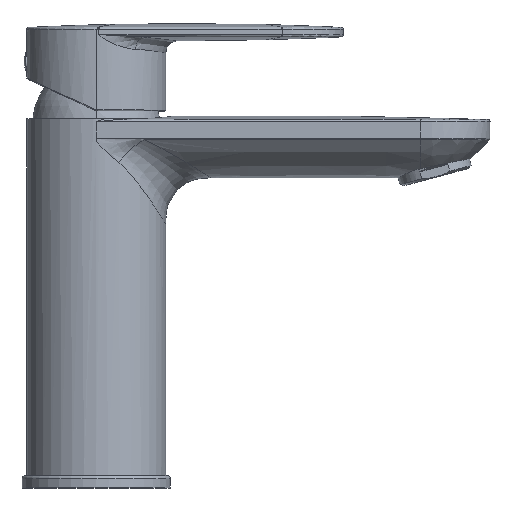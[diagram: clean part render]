
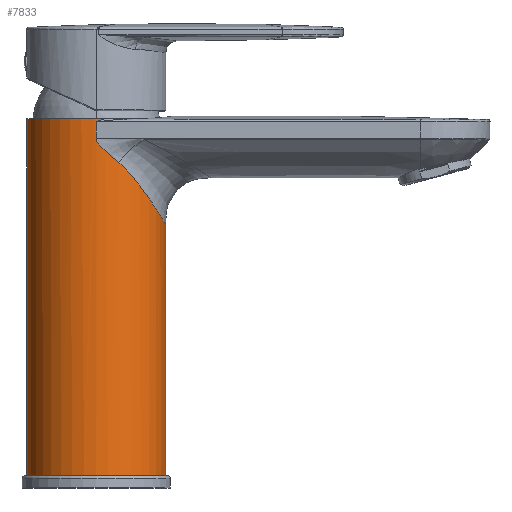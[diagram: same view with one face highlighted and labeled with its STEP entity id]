
A CAD part, top view. The second image highlights one B-rep face of the part: STEP entity #7833.
In plain terms, the highlighted cylindrical face has radius 22.5 mm (diameter 45 mm), a partial arc.
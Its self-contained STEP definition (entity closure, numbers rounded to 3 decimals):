
#1799=CARTESIAN_POINT('',(0.,115.5,0.));
#1800=DIRECTION('',(0.,-1.,0.));
#1801=DIRECTION('',(0.125,0.,0.992));
#1802=AXIS2_PLACEMENT_3D('',#1799,#1800,#1801);
#1899=DIRECTION('',(0.,1.,0.));
#1900=VECTOR('',#1899,81.391);
#1901=CARTESIAN_POINT('',(22.5,0.,0.));
#1902=LINE('',#1901,#1900);
#1973=CARTESIAN_POINT('',(0.,0.,0.));
#1974=DIRECTION('',(0.,1.,0.));
#1975=DIRECTION('',(-1.,0.,0.));
#1976=AXIS2_PLACEMENT_3D('',#1973,#1974,#1975);
#2036=DIRECTION('',(0.,1.,0.));
#2037=VECTOR('',#2036,115.5);
#2038=CARTESIAN_POINT('',(-22.5,0.,0.));
#2039=LINE('',#2038,#2037);
#2040=CARTESIAN_POINT('',(2.817,115.5,22.323));
#2041=CARTESIAN_POINT('',(2.596,115.432,22.351));
#2042=CARTESIAN_POINT('',(2.159,115.295,22.399));
#2043=CARTESIAN_POINT('',(1.614,115.118,22.444));
#2044=CARTESIAN_POINT('',(1.185,114.974,22.47));
#2045=CARTESIAN_POINT('',(0.926,114.885,22.481));
#2046=CARTESIAN_POINT('',(0.731,114.816,22.488));
#2047=CARTESIAN_POINT('',(0.592,114.766,22.492));
#2048=CARTESIAN_POINT('',(0.444,114.714,22.496));
#2049=CARTESIAN_POINT('',(0.278,114.672,22.499));
#2050=CARTESIAN_POINT('',(0.123,114.611,22.5));
#2051=CARTESIAN_POINT('',(0.04,114.543,22.5));
#2052=CARTESIAN_POINT('',(0.,114.507,22.5));
#2054=DIRECTION('',(0.,-1.,0.));
#2055=VECTOR('',#2054,5.272);
#2056=CARTESIAN_POINT('',(0.,114.507,22.5));
#2057=LINE('',#2056,#2055);
#2058=CARTESIAN_POINT('',(0.,109.236,
22.5));
#2059=CARTESIAN_POINT('',(-0.001,109.205,
22.5));
#2060=CARTESIAN_POINT('',(-0.01,109.144,
22.5));
#2061=CARTESIAN_POINT('',(-0.004,109.052,
22.5));
#2062=CARTESIAN_POINT('',(-0.003,108.991,
22.5));
#2063=CARTESIAN_POINT('',(0.,108.96,22.5));
#2065=CARTESIAN_POINT('',(0.,108.96,22.5));
#2066=CARTESIAN_POINT('',(-0.01,108.84,
22.5));
#2067=CARTESIAN_POINT('',(0.023,108.568,22.5));
#2068=CARTESIAN_POINT('',(0.327,107.881,22.498));
#2069=CARTESIAN_POINT('',(0.606,107.472,22.492));
#2070=CARTESIAN_POINT('',(0.931,107.052,22.482));
#2071=CARTESIAN_POINT('',(1.395,106.525,22.459));
#2072=CARTESIAN_POINT('',(2.021,105.895,22.413));
#2073=CARTESIAN_POINT('',(2.592,105.377,22.353));
#2074=CARTESIAN_POINT('',(2.911,105.095,22.311));
#2076=CARTESIAN_POINT('',(7.367,101.361,21.26));
#2077=CARTESIAN_POINT('',(7.5,101.236,21.213));
#2078=CARTESIAN_POINT('',(7.767,100.985,21.119));
#2079=CARTESIAN_POINT('',(8.297,100.479,20.917));
#2080=CARTESIAN_POINT('',(9.209,99.592,20.543));
#2081=CARTESIAN_POINT('',(10.471,98.309,19.938));
#2082=CARTESIAN_POINT('',(11.911,96.724,19.112));
#2083=CARTESIAN_POINT('',(13.263,95.056,18.2));
#2084=CARTESIAN_POINT('',(14.543,93.372,17.194));
#2085=CARTESIAN_POINT('',(15.756,91.706,16.091));
#2086=CARTESIAN_POINT('',(16.898,90.08,14.888));
#2087=CARTESIAN_POINT('',(17.96,88.529,13.588));
#2088=CARTESIAN_POINT('',(18.772,87.308,12.427));
#2089=CARTESIAN_POINT('',(19.378,86.374,11.446));
#2090=CARTESIAN_POINT('',(19.938,85.492,10.454));
#2091=CARTESIAN_POINT('',(20.581,84.457,9.151));
#2092=CARTESIAN_POINT('',(21.253,83.369,7.462));
#2093=CARTESIAN_POINT('',(21.798,82.493,5.679));
#2094=CARTESIAN_POINT('',(22.2,81.857,3.824));
#2095=CARTESIAN_POINT('',(22.446,81.475,1.921));
#2096=CARTESIAN_POINT('',(22.499,81.392,0.64));
#2097=CARTESIAN_POINT('',(22.5,81.391,0.));
#2099=CARTESIAN_POINT('',(2.817,115.5,22.323));
#2392=CARTESIAN_POINT('',(7.367,101.361,21.26));
#2393=CARTESIAN_POINT('',(6.968,101.717,21.398));
#2394=CARTESIAN_POINT('',(6.107,102.469,21.673));
#2395=CARTESIAN_POINT('',(4.555,103.7,22.054));
#2396=CARTESIAN_POINT('',(3.474,104.616,22.237));
#2397=CARTESIAN_POINT('',(2.911,105.095,22.311));
#3258=VERTEX_POINT('',#2099);
#3259=CARTESIAN_POINT('',(-22.5,115.5,0.));
#3260=VERTEX_POINT('',#3259);
#3265=CARTESIAN_POINT('',(22.5,0.,0.));
#3266=CARTESIAN_POINT('',(-22.5,0.,0.));
#3267=VERTEX_POINT('',#3265);
#3268=VERTEX_POINT('',#3266);
#3269=CARTESIAN_POINT('',(22.5,81.391,0.));
#3270=VERTEX_POINT('',#3269);
#3295=VERTEX_POINT('',#2052);
#3296=CARTESIAN_POINT('',(0.,109.236,
22.5));
#3297=VERTEX_POINT('',#3296);
#3298=VERTEX_POINT('',#2063);
#3299=VERTEX_POINT('',#2074);
#3300=VERTEX_POINT('',#2392);
#7810=CARTESIAN_POINT('',(0.,-4.54,0.));
#7811=DIRECTION('',(0.,-1.,0.));
#7812=DIRECTION('',(1.,0.,0.));
#7813=AXIS2_PLACEMENT_3D('',#7810,#7811,#7812);
#7814=CYLINDRICAL_SURFACE('',#7813,22.5);
#7815=ORIENTED_EDGE('',*,*,#7731,.F.);
#7816=ORIENTED_EDGE('',*,*,#7710,.T.);
#7817=ORIENTED_EDGE('',*,*,#7296,.F.);
#7819=ORIENTED_EDGE('',*,*,#7818,.T.);
#7821=ORIENTED_EDGE('',*,*,#7820,.T.);
#7823=ORIENTED_EDGE('',*,*,#7822,.T.);
#7825=ORIENTED_EDGE('',*,*,#7824,.T.);
#7827=ORIENTED_EDGE('',*,*,#7826,.F.);
#7829=ORIENTED_EDGE('',*,*,#7828,.T.);
#7830=ORIENTED_EDGE('',*,*,#7696,.F.);
#7831=EDGE_LOOP('',(#7815,#7816,#7817,#7819,#7821,#7823,#7825,#7827,#7829,
#7830));
#7832=FACE_OUTER_BOUND('',#7831,.F.);
#7833=ADVANCED_FACE('',(#7832),#7814,.T.);
#1803=CIRCLE('',#1802,22.5);
#1977=CIRCLE('',#1976,22.5);
#2053=B_SPLINE_CURVE_WITH_KNOTS('',3,(#2040,#2041,#2042,#2043,#2044,#2045,#2046,
#2047,#2048,#2049,#2050,#2051,#2052),.UNSPECIFIED.,.F.,.F.,(4,1,1,1,1,1,1,1,1,1,
4),(0.,0.234,0.462,0.576,
0.689,0.736,0.783,0.838,
0.892,0.946,1.),.UNSPECIFIED.);
#2064=B_SPLINE_CURVE_WITH_KNOTS('',3,(#2058,#2059,#2060,#2061,#2062,#2063),
.UNSPECIFIED.,.F.,.F.,(4,1,1,4),(0.,0.333,0.667,1.),
.UNSPECIFIED.);
#2075=B_SPLINE_CURVE_WITH_KNOTS('',3,(#2065,#2066,#2067,#2068,#2069,#2070,#2071,
#2072,#2073,#2074),.UNSPECIFIED.,.F.,.F.,(4,1,1,1,1,1,1,4),(0.,
0.143,0.286,0.429,0.571,
0.714,0.857,1.),.UNSPECIFIED.);
#2098=B_SPLINE_CURVE_WITH_KNOTS('',3,(#2076,#2077,#2078,#2079,#2080,#2081,#2082,
#2083,#2084,#2085,#2086,#2087,#2088,#2089,#2090,#2091,#2092,#2093,#2094,#2095,
#2096,#2097),.UNSPECIFIED.,.F.,.F.,(4,1,1,1,1,1,1,1,1,1,1,1,1,1,1,1,1,1,1,4),(
0.,0.019,0.037,0.075,0.148,
0.221,0.292,0.362,0.43,
0.497,0.562,0.626,0.658,
0.688,0.746,0.8,0.852,
0.902,0.951,1.),.UNSPECIFIED.);
#2398=B_SPLINE_CURVE_WITH_KNOTS('',3,(#2392,#2393,#2394,#2395,#2396,#2397),
.UNSPECIFIED.,.F.,.F.,(4,1,1,4),(0.,0.333,0.667,1.),
.UNSPECIFIED.);
#7296=EDGE_CURVE('',#3258,#3260,#1803,.T.);
#7696=EDGE_CURVE('',#3267,#3270,#1902,.T.);
#7710=EDGE_CURVE('',#3268,#3260,#2039,.T.);
#7731=EDGE_CURVE('',#3268,#3267,#1977,.T.);
#7818=EDGE_CURVE('',#3258,#3295,#2053,.T.);
#7820=EDGE_CURVE('',#3295,#3297,#2057,.T.);
#7822=EDGE_CURVE('',#3297,#3298,#2064,.T.);
#7824=EDGE_CURVE('',#3298,#3299,#2075,.T.);
#7826=EDGE_CURVE('',#3300,#3299,#2398,.T.);
#7828=EDGE_CURVE('',#3300,#3270,#2098,.T.);
